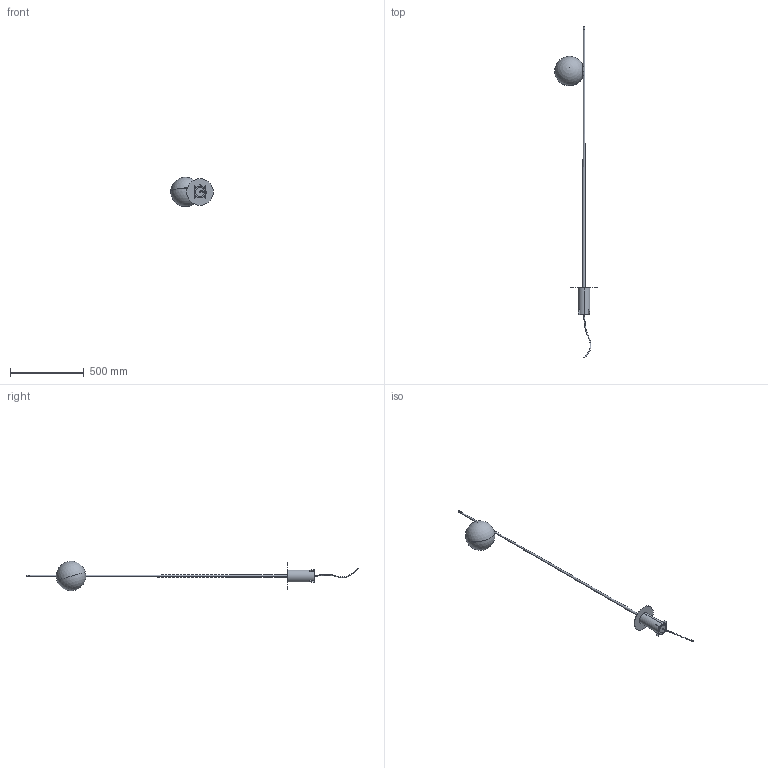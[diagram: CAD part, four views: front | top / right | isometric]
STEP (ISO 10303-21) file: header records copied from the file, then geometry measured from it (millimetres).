
FILE_DESCRIPTION (( 'STEP AP203' ), '1' );
FILE_NAME ('HP302LBEXT.step', '2023-02-16T13:59:36', ( '' ), ( '' ), 'SwSTEP 2.0', 'SolidWorks 2019', '' );
FILE_SCHEMA (( 'CONFIG_CONTROL_DESIGN' ));
Length unit declared in the file: millimetre
Products named in the file (10): HP302LBEXT; PR23MU02-L6; 10CP211AZ  tubo MAT attacco a terra - Nilo; PR23MU02-D2; PR23MU02-F; PR23MU02-G; PR23MU02-E; Copia di Copia di cavo^HP302LBEXT; PR23MU02-Attacco a terra; 10CP211NZ  piastra MAT - attacco a terra - Nilo
Assembly tree (9 placements, depth 2):
  HP302LBEXT
    PR23MU02-Attacco a terra
    PR23MU02-L6
    PR23MU02-D2
    PR23MU02-E
    PR23MU02-F
    PR23MU02-G
    10CP211NZ  piastra MAT - attacco a terra - Nilo
    10CP211AZ  tubo MAT attacco a terra - Nilo
    Copia di Copia di cavo^HP302LBEXT
Bounding box: 288.77 x 2252.2 x 199.66 mm (x, y, z)
Volume: 846212.1 mm3; surface area: 562152.7 mm2
Topology: 9 solids, 9 shells, 210 faces, 529 edges, 324 vertices
Faces by surface type: cylinder 101, plane 55, cone 28, bspline 10, sphere 8, torus 8
Entity records: 10034 total; most frequent: CARTESIAN_POINT 4151, DIRECTION 1030, ORIENTED_EDGE 998, EDGE_CURVE 499, AXIS2_PLACEMENT_3D 414, VERTEX_POINT 316, EDGE_LOOP 245, FACE_OUTER_BOUND 210
